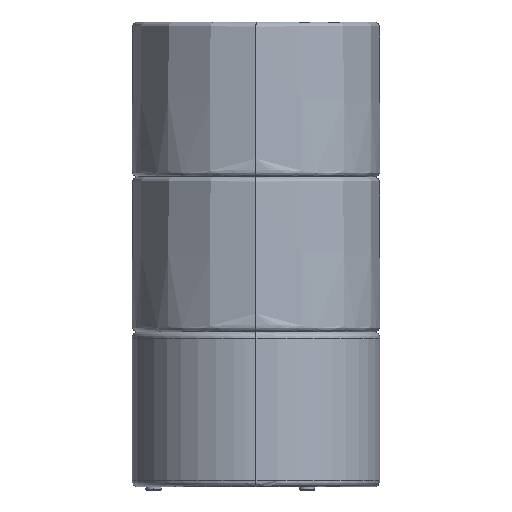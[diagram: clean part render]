
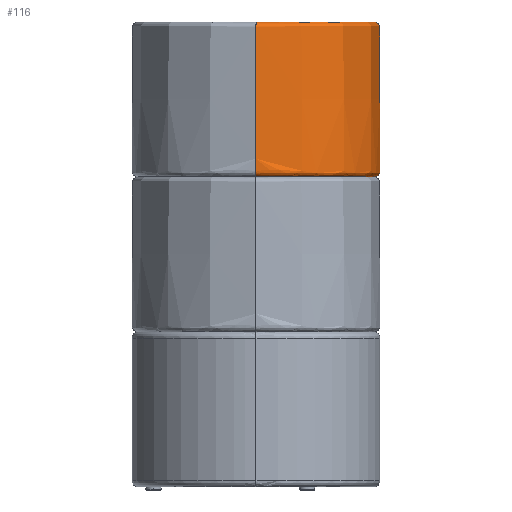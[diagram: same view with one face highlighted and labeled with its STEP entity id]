
A CAD part, left-side view. The second image highlights one B-rep face of the part: STEP entity #116.
In plain terms, the highlighted free-form (B-spline) face has degree [2, 2] with [5, 11] control points.
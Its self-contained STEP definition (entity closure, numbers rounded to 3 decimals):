
#116=ADVANCED_FACE('',(#220),#1254,.T.);
#220=FACE_OUTER_BOUND('',#324,.T.);
#324=EDGE_LOOP('',(#562,#563,#564));
#562=ORIENTED_EDGE('',*,*,#854,.T.);
#563=ORIENTED_EDGE('',*,*,#848,.F.);
#564=ORIENTED_EDGE('',*,*,#843,.F.);
#843=EDGE_CURVE('',#1161,#1166,#1025,.T.);
#848=EDGE_CURVE('',#1166,#1168,#1027,.T.);
#854=EDGE_CURVE('',#1161,#1168,#1033,.T.);
#1025=(
BOUNDED_CURVE()
B_SPLINE_CURVE(2,(#3269,#3270,#3271,#3272,#3273,#3274,#3275,#3276,#3277,
#3278,#3279),.UNSPECIFIED.,.F.,.F.)
B_SPLINE_CURVE_WITH_KNOTS((3,2,2,2,2,3),(-152.,0.,12.566,196.566,
209.133,210.133),.UNSPECIFIED.)
CURVE()
GEOMETRIC_REPRESENTATION_ITEM()
RATIONAL_B_SPLINE_CURVE((1.,1.,1.,0.707,1.,1.,1.,0.707,
1.,1.,1.))
REPRESENTATION_ITEM('')
);
#1027=(
BOUNDED_CURVE()
B_SPLINE_CURVE(2,(#3297,#3298,#3299,#3300,#3301),.UNSPECIFIED.,.F.,.F.)
B_SPLINE_CURVE_WITH_KNOTS((3,2,3),(0.,251.327,502.655),
 .UNSPECIFIED.)
CURVE()
GEOMETRIC_REPRESENTATION_ITEM()
RATIONAL_B_SPLINE_CURVE((1.,0.707,1.,0.707,1.))
REPRESENTATION_ITEM('')
);
#1033=(
BOUNDED_CURVE()
B_SPLINE_CURVE(2,(#3333,#3334,#3335,#3336,#3337,#3338,#3339,#3340,#3341,
#3342,#3343),.UNSPECIFIED.,.F.,.F.)
B_SPLINE_CURVE_WITH_KNOTS((3,2,2,2,2,3),(-152.,0.,12.566,196.566,
209.133,210.133),.UNSPECIFIED.)
CURVE()
GEOMETRIC_REPRESENTATION_ITEM()
RATIONAL_B_SPLINE_CURVE((1.,1.,1.,0.707,1.,1.,1.,0.707,
1.,1.,1.))
REPRESENTATION_ITEM('')
);
#1161=VERTEX_POINT('',#3259);
#1166=VERTEX_POINT('',#3264);
#1168=VERTEX_POINT('',#3266);
#1254=(
BOUNDED_SURFACE()
B_SPLINE_SURFACE(2,2,((#3034,#3035,#3036,#3037,#3038,#3039,#3040,#3041,
#3042,#3043,#3044),(#3045,#3046,#3047,#3048,#3049,#3050,#3051,#3052,#3053,
#3054,#3055),(#3056,#3057,#3058,#3059,#3060,#3061,#3062,#3063,#3064,#3065,
#3066),(#3067,#3068,#3069,#3070,#3071,#3072,#3073,#3074,#3075,#3076,#3077),
(#3078,#3079,#3080,#3081,#3082,#3083,#3084,#3085,#3086,#3087,#3088)),
 .UNSPECIFIED.,.F.,.F.,.F.)
B_SPLINE_SURFACE_WITH_KNOTS((3,2,3),(3,2,2,2,2,3),(0.,251.327,
502.655),(-152.,0.,12.566,196.566,209.133,
210.133),.UNSPECIFIED.)
GEOMETRIC_REPRESENTATION_ITEM()
RATIONAL_B_SPLINE_SURFACE(((1.,1.,1.,0.707,1.,1.,1.,0.707,
1.,1.,1.),(0.707,0.707,0.707,0.5,
0.707,0.707,0.707,0.5,
0.707,0.707,0.707),(1.,1.,1.,0.707,
1.,1.,1.,0.707,1.,1.,1.),(0.707,0.707,
0.707,0.5,0.707,0.707,
0.707,0.5,0.707,0.707,
0.707),(1.,1.,1.,0.707,1.,1.,1.,0.707,
1.,1.,1.)))
REPRESENTATION_ITEM('')
SURFACE()
);
#3034=CARTESIAN_POINT('',(600.,0.,604.));
#3035=CARTESIAN_POINT('',(676.,0.,604.));
#3036=CARTESIAN_POINT('',(752.,0.,604.));
#3037=CARTESIAN_POINT('',(760.,0.,604.));
#3038=CARTESIAN_POINT('',(760.,0.,596.));
#3039=CARTESIAN_POINT('',(760.,0.,504.));
#3040=CARTESIAN_POINT('',(760.,0.,412.));
#3041=CARTESIAN_POINT('',(760.,0.,404.));
#3042=CARTESIAN_POINT('',(752.,0.,404.));
#3043=CARTESIAN_POINT('',(751.5,0.,404.));
#3044=CARTESIAN_POINT('',(751.,0.,404.));
#3045=CARTESIAN_POINT('',(600.,0.,604.));
#3046=CARTESIAN_POINT('',(676.,-76.,604.));
#3047=CARTESIAN_POINT('',(752.,-152.,604.));
#3048=CARTESIAN_POINT('',(760.,-160.,604.));
#3049=CARTESIAN_POINT('',(760.,-160.,596.));
#3050=CARTESIAN_POINT('',(760.,-160.,504.));
#3051=CARTESIAN_POINT('',(760.,-160.,412.));
#3052=CARTESIAN_POINT('',(760.,-160.,404.));
#3053=CARTESIAN_POINT('',(752.,-152.,404.));
#3054=CARTESIAN_POINT('',(751.5,-151.5,404.));
#3055=CARTESIAN_POINT('',(751.,-151.,404.));
#3056=CARTESIAN_POINT('',(600.,0.,604.));
#3057=CARTESIAN_POINT('',(600.,-76.,604.));
#3058=CARTESIAN_POINT('',(600.,-152.,604.));
#3059=CARTESIAN_POINT('',(600.,-160.,604.));
#3060=CARTESIAN_POINT('',(600.,-160.,596.));
#3061=CARTESIAN_POINT('',(600.,-160.,504.));
#3062=CARTESIAN_POINT('',(600.,-160.,412.));
#3063=CARTESIAN_POINT('',(600.,-160.,404.));
#3064=CARTESIAN_POINT('',(600.,-152.,404.));
#3065=CARTESIAN_POINT('',(600.,-151.5,404.));
#3066=CARTESIAN_POINT('',(600.,-151.,404.));
#3067=CARTESIAN_POINT('',(600.,0.,604.));
#3068=CARTESIAN_POINT('',(524.,-76.,604.));
#3069=CARTESIAN_POINT('',(448.,-152.,604.));
#3070=CARTESIAN_POINT('',(440.,-160.,604.));
#3071=CARTESIAN_POINT('',(440.,-160.,596.));
#3072=CARTESIAN_POINT('',(440.,-160.,504.));
#3073=CARTESIAN_POINT('',(440.,-160.,412.));
#3074=CARTESIAN_POINT('',(440.,-160.,404.));
#3075=CARTESIAN_POINT('',(448.,-152.,404.));
#3076=CARTESIAN_POINT('',(448.5,-151.5,404.));
#3077=CARTESIAN_POINT('',(449.,-151.,404.));
#3078=CARTESIAN_POINT('',(600.,0.,604.));
#3079=CARTESIAN_POINT('',(524.,0.,604.));
#3080=CARTESIAN_POINT('',(448.,0.,604.));
#3081=CARTESIAN_POINT('',(440.,0.,604.));
#3082=CARTESIAN_POINT('',(440.,0.,596.));
#3083=CARTESIAN_POINT('',(440.,0.,504.));
#3084=CARTESIAN_POINT('',(440.,0.,412.));
#3085=CARTESIAN_POINT('',(440.,0.,404.));
#3086=CARTESIAN_POINT('',(448.,0.,404.));
#3087=CARTESIAN_POINT('',(448.5,0.,404.));
#3088=CARTESIAN_POINT('',(449.,0.,404.));
#3259=CARTESIAN_POINT('',(600.,0.,604.));
#3264=CARTESIAN_POINT('',(751.,0.,404.));
#3266=CARTESIAN_POINT('',(449.,0.,404.));
#3269=CARTESIAN_POINT('',(600.,0.,604.));
#3270=CARTESIAN_POINT('',(676.,0.,604.));
#3271=CARTESIAN_POINT('',(752.,0.,604.));
#3272=CARTESIAN_POINT('',(760.,0.,604.));
#3273=CARTESIAN_POINT('',(760.,0.,596.));
#3274=CARTESIAN_POINT('',(760.,0.,504.));
#3275=CARTESIAN_POINT('',(760.,0.,412.));
#3276=CARTESIAN_POINT('',(760.,0.,404.));
#3277=CARTESIAN_POINT('',(752.,0.,404.));
#3278=CARTESIAN_POINT('',(751.5,0.,404.));
#3279=CARTESIAN_POINT('',(751.,0.,404.));
#3297=CARTESIAN_POINT('',(751.,0.,404.));
#3298=CARTESIAN_POINT('',(751.,-151.,404.));
#3299=CARTESIAN_POINT('',(600.,-151.,404.));
#3300=CARTESIAN_POINT('',(449.,-151.,404.));
#3301=CARTESIAN_POINT('',(449.,0.,404.));
#3333=CARTESIAN_POINT('',(600.,0.,604.));
#3334=CARTESIAN_POINT('',(524.,0.,604.));
#3335=CARTESIAN_POINT('',(448.,0.,604.));
#3336=CARTESIAN_POINT('',(440.,0.,604.));
#3337=CARTESIAN_POINT('',(440.,0.,596.));
#3338=CARTESIAN_POINT('',(440.,0.,504.));
#3339=CARTESIAN_POINT('',(440.,0.,412.));
#3340=CARTESIAN_POINT('',(440.,0.,404.));
#3341=CARTESIAN_POINT('',(448.,0.,404.));
#3342=CARTESIAN_POINT('',(448.5,0.,404.));
#3343=CARTESIAN_POINT('',(449.,0.,404.));
